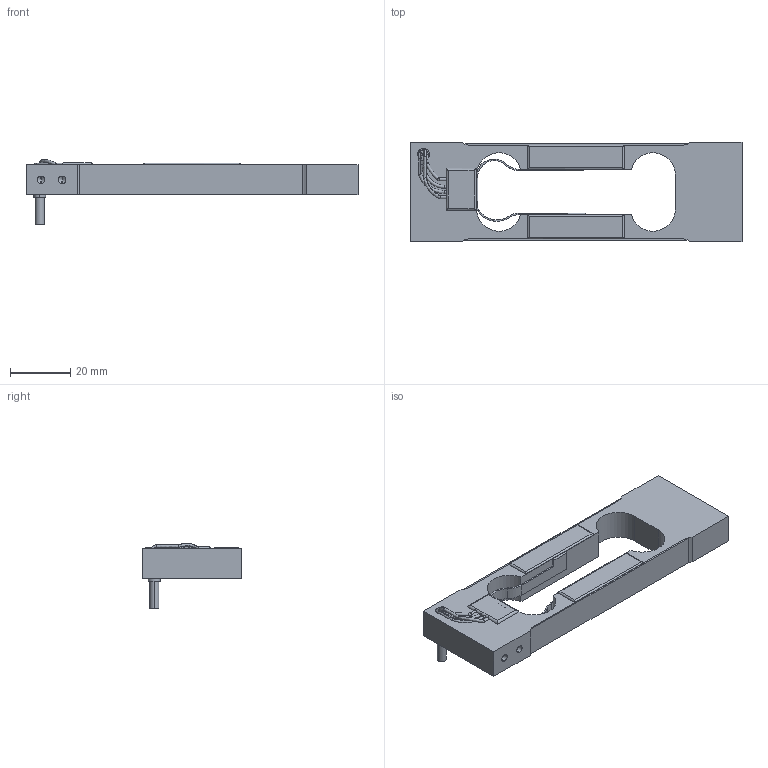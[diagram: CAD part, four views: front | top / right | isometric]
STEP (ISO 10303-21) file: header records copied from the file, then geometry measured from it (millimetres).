
FILE_DESCRIPTION (( 'STEP AP214' ), '1' );
FILE_NAME ('L6B assembly 2.STEP', '2021-03-17T12:56:13', ( '' ), ( '' ), 'SwSTEP 2.0', 'SolidWorks 2020', '' );
FILE_SCHEMA (( 'AUTOMOTIVE_DESIGN' ));
Length unit declared in the file: millimetre
Products named in the file (8): PCB; L6B silicon layer 3; L6B silicon layer 2; L6B 3kg element; L6B silicon layer 1; L6B assembly 2; L6B Cable; L6B Cable entry
Assembly tree (9 placements, depth 2):
  L6B assembly 2
    L6B 3kg element
    PCB
    L6B silicon layer 1  x2
    L6B silicon layer 2  x2
    L6B silicon layer 3
    L6B Cable entry
    L6B Cable
Bounding box: 110 x 33 x 21.59 mm (x, y, z)
Volume: 23751.9 mm3; surface area: 15473.8 mm2
Topology: 9 solids, 9 shells, 170 faces, 449 edges, 289 vertices
Faces by surface type: cylinder 73, plane 59, bspline 16, torus 14, cone 8
Entity records: 6712 total; most frequent: CARTESIAN_POINT 1890, ORIENTED_EDGE 834, DIRECTION 794, EDGE_CURVE 417, AXIS2_PLACEMENT_3D 305, VERTEX_POINT 273, LINE 184, VECTOR 184
